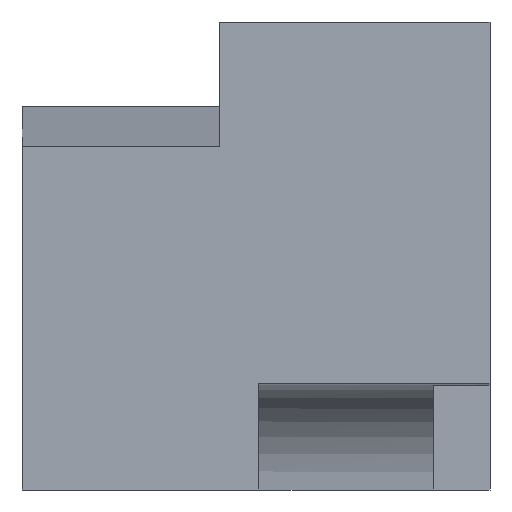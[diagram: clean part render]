
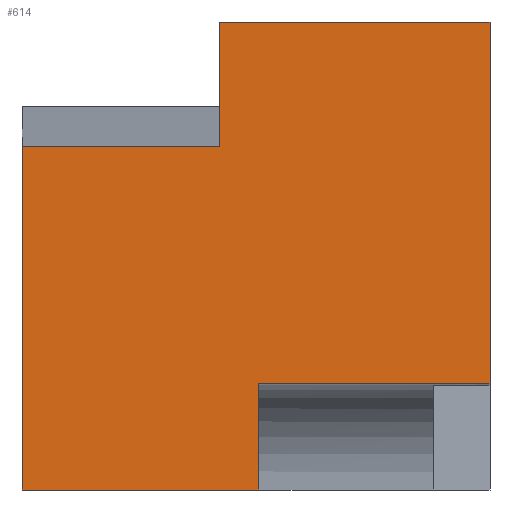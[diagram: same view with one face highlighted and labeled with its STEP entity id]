
A CAD part, front view. The second image highlights one B-rep face of the part: STEP entity #614.
In plain terms, the highlighted planar face has unit normal (0, -1, 0).
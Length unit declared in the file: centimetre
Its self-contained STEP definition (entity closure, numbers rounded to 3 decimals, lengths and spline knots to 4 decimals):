
#17 = VECTOR ( 'NONE', #736, 100. ) ;
#22 = CARTESIAN_POINT ( 'NONE',  ( 0., 0., 0. ) ) ;
#27 = DIRECTION ( 'NONE',  ( 0., 1., 0. ) ) ;
#36 = ORIENTED_EDGE ( 'NONE', *, *, #663, .F. ) ;
#45 = VECTOR ( 'NONE', #545, 100. ) ;
#47 = CARTESIAN_POINT ( 'NONE',  ( 0., 0., 0. ) ) ;
#52 = CARTESIAN_POINT ( 'NONE',  ( 0., 0., 734.1812 ) ) ;
#65 = VECTOR ( 'NONE', #256, 100. ) ;
#101 = LINE ( 'NONE', #429, #788 ) ;
#113 = LINE ( 'NONE', #354, #849 ) ;
#116 = DIRECTION ( 'NONE',  ( 0., 0., -1. ) ) ;
#118 = ORIENTED_EDGE ( 'NONE', *, *, #456, .F. ) ;
#131 = LINE ( 'NONE', #661, #686 ) ;
#145 = LINE ( 'NONE', #371, #45 ) ;
#153 = EDGE_LOOP ( 'NONE', ( #491, #331, #118, #838, #36, #998, #543, #466 ) ) ;
#174 = DIRECTION ( 'NONE',  ( 0., 0., 1. ) ) ;
#214 = VERTEX_POINT ( 'NONE', #432 ) ;
#231 = VERTEX_POINT ( 'NONE', #47 ) ;
#235 = CARTESIAN_POINT ( 'NONE',  ( 421.4408, 0., 734.1812 ) ) ;
#250 = VERTEX_POINT ( 'NONE', #52 ) ;
#256 = DIRECTION ( 'NONE',  ( 0., 0., 1. ) ) ;
#277 = DIRECTION ( 'NONE',  ( 1., 0., 0. ) ) ;
#280 = CARTESIAN_POINT ( 'NONE',  ( 506.3453, 0., 0. ) ) ;
#299 = DIRECTION ( 'NONE',  ( 0., 0., -1. ) ) ;
#331 = ORIENTED_EDGE ( 'NONE', *, *, #761, .T. ) ;
#339 = EDGE_CURVE ( 'NONE', #250, #231, #113, .T. ) ;
#354 = CARTESIAN_POINT ( 'NONE',  ( 0., 0., 1000. ) ) ;
#359 = VERTEX_POINT ( 'NONE', #280 ) ;
#360 = CARTESIAN_POINT ( 'NONE',  ( 1000., 0., 227.9119 ) ) ;
#371 = CARTESIAN_POINT ( 'NONE',  ( 421.4408, 0., 734.1812 ) ) ;
#373 = VERTEX_POINT ( 'NONE', #360 ) ;
#383 = CARTESIAN_POINT ( 'NONE',  ( 506.3453, 0., 227.9119 ) ) ;
#429 = CARTESIAN_POINT ( 'NONE',  ( 506.3453, 0., 227.9119 ) ) ;
#431 = EDGE_CURVE ( 'NONE', #231, #359, #714, .T. ) ;
#432 = CARTESIAN_POINT ( 'NONE',  ( 421.4408, 0., 1000. ) ) ;
#433 = VERTEX_POINT ( 'NONE', #441 ) ;
#441 = CARTESIAN_POINT ( 'NONE',  ( 1000., 0., 1000. ) ) ;
#456 = EDGE_CURVE ( 'NONE', #433, #373, #519, .T. ) ;
#466 = ORIENTED_EDGE ( 'NONE', *, *, #431, .T. ) ;
#479 = FACE_OUTER_BOUND ( 'NONE', #153, .T. ) ;
#483 = EDGE_CURVE ( 'NONE', #214, #433, #131, .T. ) ;
#491 = ORIENTED_EDGE ( 'NONE', *, *, #580, .F. ) ;
#511 = CARTESIAN_POINT ( 'NONE',  ( 1000., 0., 1000. ) ) ;
#519 = LINE ( 'NONE', #511, #899 ) ;
#543 = ORIENTED_EDGE ( 'NONE', *, *, #339, .T. ) ;
#545 = DIRECTION ( 'NONE',  ( -1., 0., 0. ) ) ;
#555 = AXIS2_PLACEMENT_3D ( 'NONE', #567, #27, #174 ) ;
#557 = LINE ( 'NONE', #945, #65 ) ;
#567 = CARTESIAN_POINT ( 'NONE',  ( 0., 0., 1000. ) ) ;
#580 = EDGE_CURVE ( 'NONE', #789, #359, #683, .T. ) ;
#614 = ADVANCED_FACE ( 'NONE', ( #479 ), #802, .F. ) ;
#661 = CARTESIAN_POINT ( 'NONE',  ( 0., 0., 1000. ) ) ;
#663 = EDGE_CURVE ( 'NONE', #862, #214, #557, .T. ) ;
#683 = LINE ( 'NONE', #839, #837 ) ;
#686 = VECTOR ( 'NONE', #277, 100. ) ;
#714 = LINE ( 'NONE', #22, #17 ) ;
#736 = DIRECTION ( 'NONE',  ( 1., 0., 0. ) ) ;
#761 = EDGE_CURVE ( 'NONE', #789, #373, #101, .T. ) ;
#788 = VECTOR ( 'NONE', #964, 100. ) ;
#789 = VERTEX_POINT ( 'NONE', #383 ) ;
#802 = PLANE ( 'NONE',  #555 ) ;
#837 = VECTOR ( 'NONE', #299, 100. ) ;
#838 = ORIENTED_EDGE ( 'NONE', *, *, #483, .F. ) ;
#839 = CARTESIAN_POINT ( 'NONE',  ( 506.3453, 0., 1000. ) ) ;
#849 = VECTOR ( 'NONE', #976, 100. ) ;
#862 = VERTEX_POINT ( 'NONE', #235 ) ;
#899 = VECTOR ( 'NONE', #116, 100. ) ;
#945 = CARTESIAN_POINT ( 'NONE',  ( 421.4408, 0., 734.1812 ) ) ;
#964 = DIRECTION ( 'NONE',  ( 1., 0., 0. ) ) ;
#966 = EDGE_CURVE ( 'NONE', #862, #250, #145, .T. ) ;
#976 = DIRECTION ( 'NONE',  ( 0., 0., -1. ) ) ;
#998 = ORIENTED_EDGE ( 'NONE', *, *, #966, .T. ) ;
